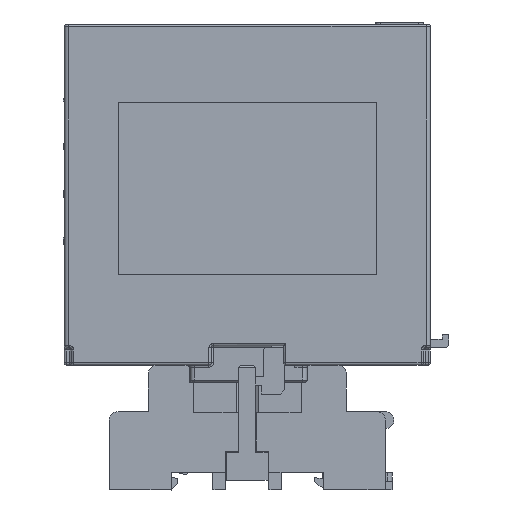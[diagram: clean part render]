
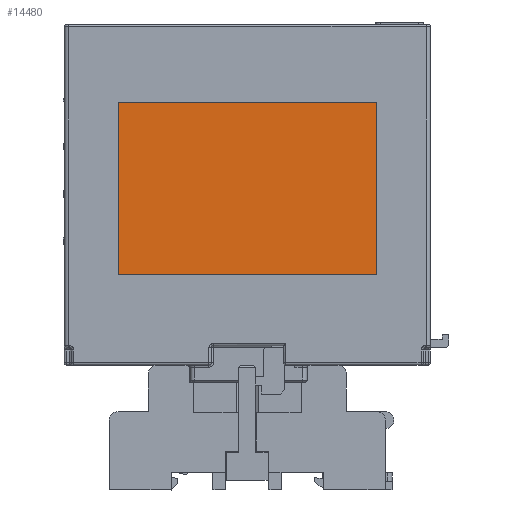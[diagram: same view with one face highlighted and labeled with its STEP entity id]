
A CAD part, left-side view. The second image highlights one B-rep face of the part: STEP entity #14480.
In plain terms, the highlighted planar face has unit normal (-1, 0, 0).
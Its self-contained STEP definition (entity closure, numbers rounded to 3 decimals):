
#199 = VERTEX_POINT ( 'NONE', #53012 ) ;
#1381 = VERTEX_POINT ( 'NONE', #19754 ) ;
#3476 = DIRECTION ( 'NONE',  ( -1., 0., 0. ) ) ;
#3636 = DIRECTION ( 'NONE',  ( 0., 0., -1. ) ) ;
#5512 = EDGE_CURVE ( 'NONE', #199, #34508, #9775, .T. ) ;
#7558 = ORIENTED_EDGE ( 'NONE', *, *, #5512, .T. ) ;
#8565 = EDGE_CURVE ( 'NONE', #18465, #199, #34818, .T. ) ;
#9775 = LINE ( 'NONE', #45244, #52576 ) ;
#10274 = CARTESIAN_POINT ( 'NONE',  ( -14.7, -30., 50. ) ) ;
#11238 = DIRECTION ( 'NONE',  ( 0., 0., 1. ) ) ;
#14480 = ADVANCED_FACE ( 'NONE', ( #22320 ), #54125, .T. ) ;
#15035 = VECTOR ( 'NONE', #48559, 1000. ) ;
#16759 = CARTESIAN_POINT ( 'NONE',  ( -14.7, 30., 90. ) ) ;
#18465 = VERTEX_POINT ( 'NONE', #10274 ) ;
#19754 = CARTESIAN_POINT ( 'NONE',  ( -14.7, 30., 50. ) ) ;
#22320 = FACE_OUTER_BOUND ( 'NONE', #52313, .T. ) ;
#32082 = LINE ( 'NONE', #40450, #15035 ) ;
#33490 = DIRECTION ( 'NONE',  ( 0., 0., 1. ) ) ;
#34508 = VERTEX_POINT ( 'NONE', #16759 ) ;
#34818 = LINE ( 'NONE', #45075, #45367 ) ;
#34880 = EDGE_CURVE ( 'NONE', #1381, #18465, #32082, .T. ) ;
#34911 = EDGE_CURVE ( 'NONE', #34508, #1381, #47282, .T. ) ;
#36996 = CARTESIAN_POINT ( 'NONE',  ( -14.7, 0., 108. ) ) ;
#39828 = ORIENTED_EDGE ( 'NONE', *, *, #8565, .T. ) ;
#40450 = CARTESIAN_POINT ( 'NONE',  ( -14.7, 30., 50. ) ) ;
#42225 = ORIENTED_EDGE ( 'NONE', *, *, #34880, .T. ) ;
#45067 = DIRECTION ( 'NONE',  ( 0., 1., 0. ) ) ;
#45075 = CARTESIAN_POINT ( 'NONE',  ( -14.7, -30., 50. ) ) ;
#45244 = CARTESIAN_POINT ( 'NONE',  ( -14.7, 30., 90. ) ) ;
#45318 = VECTOR ( 'NONE', #3636, 1000. ) ;
#45367 = VECTOR ( 'NONE', #11238, 1000. ) ;
#45748 = AXIS2_PLACEMENT_3D ( 'NONE', #36996, #3476, #33490 ) ;
#47282 = LINE ( 'NONE', #54099, #45318 ) ;
#48559 = DIRECTION ( 'NONE',  ( 0., -1., 0. ) ) ;
#50984 = ORIENTED_EDGE ( 'NONE', *, *, #34911, .T. ) ;
#52313 = EDGE_LOOP ( 'NONE', ( #42225, #39828, #7558, #50984 ) ) ;
#52576 = VECTOR ( 'NONE', #45067, 1000. ) ;
#53012 = CARTESIAN_POINT ( 'NONE',  ( -14.7, -30., 90. ) ) ;
#54099 = CARTESIAN_POINT ( 'NONE',  ( -14.7, 30., 50. ) ) ;
#54125 = PLANE ( 'NONE',  #45748 ) ;
